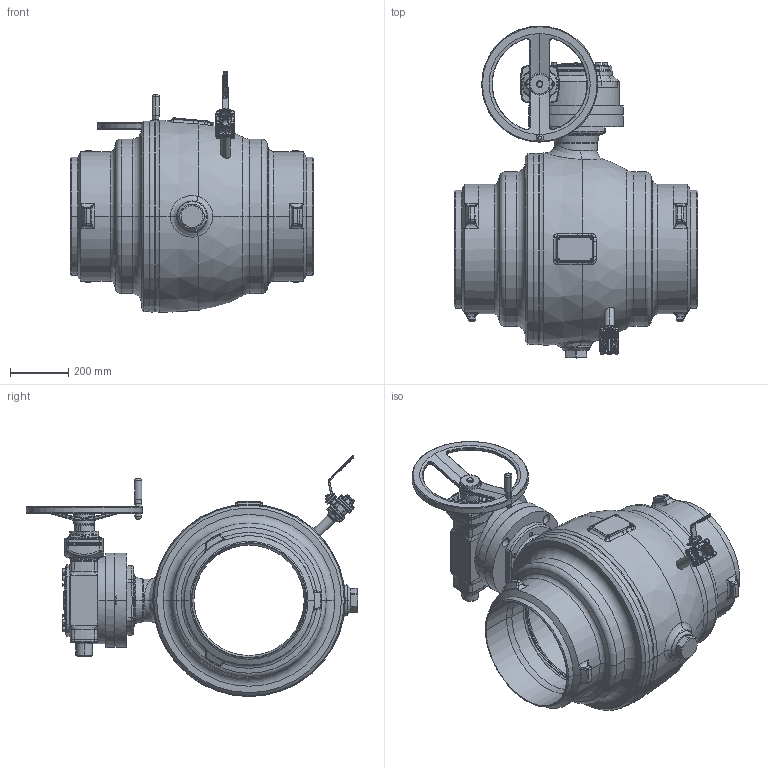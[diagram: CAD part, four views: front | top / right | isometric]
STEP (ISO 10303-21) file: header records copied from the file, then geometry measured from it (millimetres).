
FILE_DESCRIPTION((''),'2;1');
FILE_NAME('ASM0001_ASM','2026-01-28T10:55:11',('schwaba'),('KLINGER'),'CREO PARAMETRIC BY PTC INC, 2023014','CREO PARAMETRIC BY PTC INC, 2023014','');
FILE_SCHEMA(('CONFIG_CONTROL_DESIGN'));
Length unit declared in the file: millimetre
Products named in the file (3): KHSVI_400_FR_WE_ENTL; GS125_F25_AHR400_DN400; ASM0001_ASM
Assembly tree (2 placements, depth 2):
  ASM0001_ASM
    KHSVI_400_FR_WE_ENTL
    GS125_F25_AHR400_DN400
Bounding box: 838 x 1143 x 830.97 mm (x, y, z)
Volume: 82909206.4 mm3; surface area: 7034375.8 mm2
Topology: 3 solids, 7 shells, 4251 faces, 9953 edges, 5881 vertices
Faces by surface type: plane 1218, cylinder 1067, torus 721, bspline 625, cone 544, sphere 55, revolution 16, extrusion 5
Entity records: 239146 total; most frequent: CARTESIAN_POINT 146503, ORIENTED_EDGE 19806, DIRECTION 18986, EDGE_CURVE 9903, AXIS2_PLACEMENT_3D 8026, VERTEX_POINT 5881, EDGE_LOOP 4548, CIRCLE 4413
